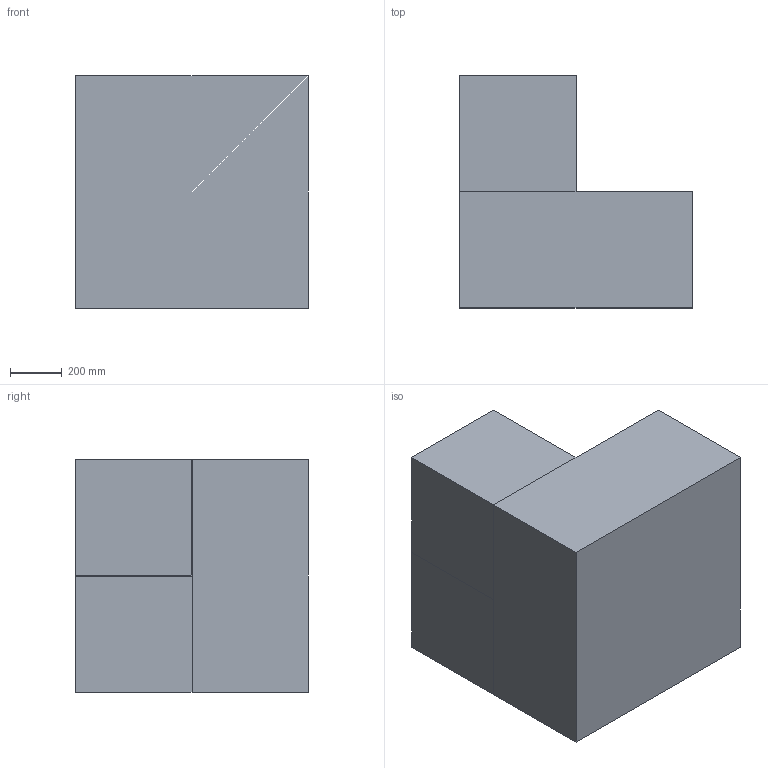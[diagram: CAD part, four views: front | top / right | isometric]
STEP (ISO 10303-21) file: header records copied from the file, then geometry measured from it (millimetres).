
FILE_DESCRIPTION (( 'STEP AP203' ), '1' );
FILE_NAME ('Type A Planter.STEP', '2019-01-15T13:53:38', ( '' ), ( '' ), 'SwSTEP 2.0', 'SolidWorks 2019', '' );
FILE_SCHEMA (( 'CONFIG_CONTROL_DESIGN' ));
Length unit declared in the file: millimetre
Products named in the file (4): Extrabox Cubby Type A_Domy˜lna; Extrabox Type A_Domy˜lna; Type A Planter; Extrabox Type D_Domy˜lna
Assembly tree (3 placements, depth 2):
  Type A Planter
    Extrabox Type D_Domy˜lna
    Extrabox Type A_Domy˜lna
    Extrabox Cubby Type A_Domy˜lna
Bounding box: 900 x 900 x 900 mm (x, y, z)
Volume: 473664936 mm3; surface area: 6438656 mm2
Topology: 3 solids, 3 shells, 44 faces, 108 edges, 72 vertices
Faces by surface type: plane 44
Entity records: 1686 total; most frequent: CARTESIAN_POINT 230, ORIENTED_EDGE 216, DIRECTION 208, EDGE_CURVE 108, LINE 108, VECTOR 108, VERTEX_POINT 72, AXIS2_PLACEMENT_3D 50
